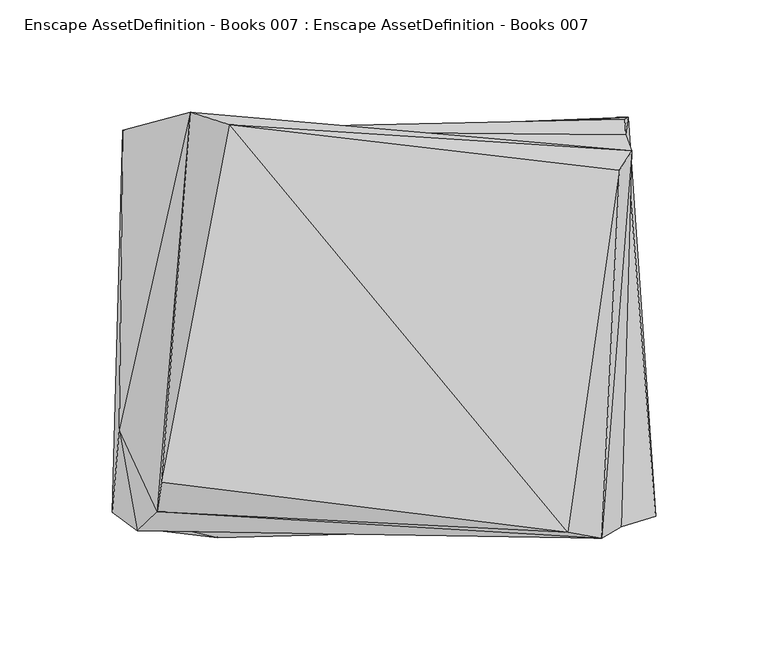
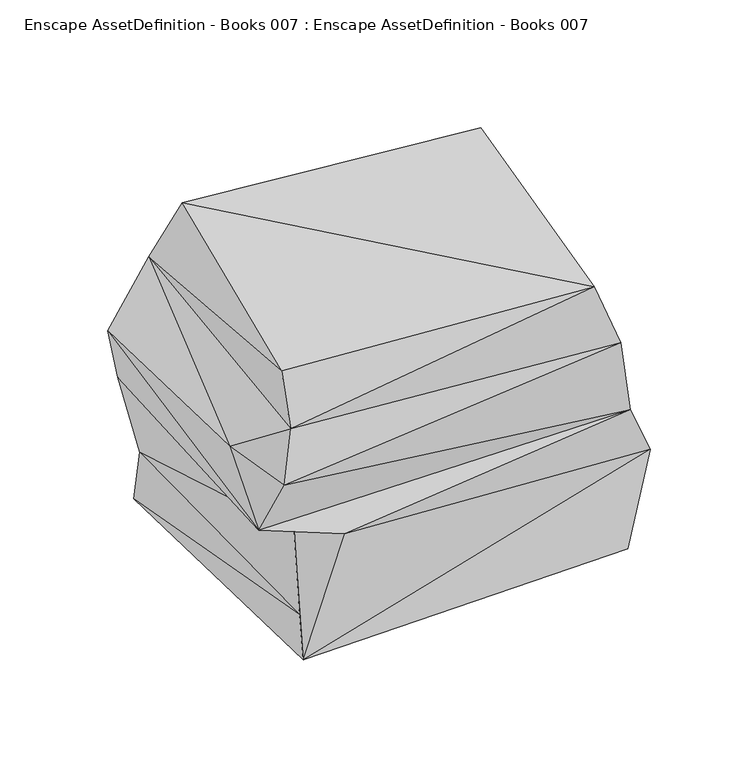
"""IFC4 building model written with IfcOpenShell, lengths in millimetres: geographic element geometry, Enscape AssetDefinition - Books 007 : Enscape AssetDefinition - Books 007."""

from ifc_helpers import new_model, si_unit, origin, place, context, project, spatial, triangles, source, transform, mapped, element, save


def enscape_assetdefinition_books_007_enscape_assetdefinition_44316b32(model_context):
    return source(origin(), model_context, "Body", "Tessellation", [
        triangles([(-102.4210103, -71.2655401, 176.2390972), (78.0924535, -93.6252809, 181.5980179), (93.2298017, -96.2106336, 141.3359769), (-104.5590611, -84.5497901, 147.3270175), (-121.326715, -47.9507523, 119.5081578), (-72.2706704, 87.6774244, 179.532519), (101.0359295, 67.5075437, 180.0316346), (-89.8396562, 93.1710753, 146.9919725), (-119.770669, 85.3390406, 113.5516718), (-113.4497703, -92.979381, 118.4598478), (106.5883068, 76.0338446, 141.0907521), (103.895884, 83.216523, 110.5690958), (103.5936586, 90.110797, 83.6517345), (-77.6416998, -95.9705774, 75.7989752), (-93.4957557, -69.0618592, 67.0412476), (-124.4059874, -84.6257848, 87.7741391), (-117.7431401, 78.3359706, 86.8760834), (101.9978894, -91.0796604, 91.4026149), (117.2043104, -86.397706, 57.3336552), (104.9752785, 90.9466835, 29.6529615), (-101.6783867, 82.4462757, 29.5562469), (-100.4642893, -86.9503431, 25.5132887), (101.0929301, -90.1505202, 0.0), (-101.7716495, -93.200434, 0.0), (-105.2999589, 82.7467843, 0.0), (97.3262904, 87.2387702, 0.0)], [[26, 23, 25], [25, 23, 24], [25, 24, 22], [25, 22, 21], [26, 25, 20], [20, 25, 21], [19, 26, 20], [19, 24, 23], [19, 23, 26], [19, 14, 24], [21, 22, 15], [15, 22, 24], [15, 24, 14], [21, 15, 17], [17, 20, 21], [13, 20, 17], [13, 12, 20], [12, 19, 20], [12, 18, 19], [14, 19, 18], [14, 16, 15], [15, 16, 17], [18, 16, 14], [13, 9, 12], [13, 17, 9], [16, 9, 17], [9, 11, 12], [11, 18, 12], [7, 3, 11], [11, 3, 18], [18, 10, 16], [10, 18, 3], [16, 5, 9], [16, 10, 5], [9, 8, 11], [5, 8, 9], [11, 6, 7], [8, 6, 11], [2, 7, 6], [2, 3, 7], [5, 4, 8], [4, 10, 3], [4, 3, 2], [10, 4, 5], [6, 1, 2], [1, 6, 8], [4, 1, 8], [1, 4, 2]]),
    ])


if __name__ == "__main__":
    model = new_model("IFC4")
    model_context = context("Model", 3, world=origin())
    ifc_project = project(units=[si_unit("LENGTHUNIT", "METRE", prefix="MILLI")], contexts=[model_context])
    site = spatial("IfcSite", under=ifc_project)
    building = spatial("IfcBuilding", under=site)
    placement = place(None, origin())
    enscape_assetdefinition_books_007_enscape_assetdefinition_shape = enscape_assetdefinition_books_007_enscape_assetdefinition_44316b32(model_context)
    element("IfcGeographicElement", 1, ObjectType="Enscape AssetDefinition - Books 007 : Enscape AssetDefinition - Books 007", at=placement, inside=building, context=model_context, shape_type="MappedRepresentation", body=[
        mapped(enscape_assetdefinition_books_007_enscape_assetdefinition_shape, transform((0.0, 0.0, 0.0), x_axis=(1.0, 0.0, 0.0), y_axis=(0.0, 1.0, 0.0), z_axis=(0.0, 0.0, 1.0))),
    ])
    save(model, "model.ifc")
